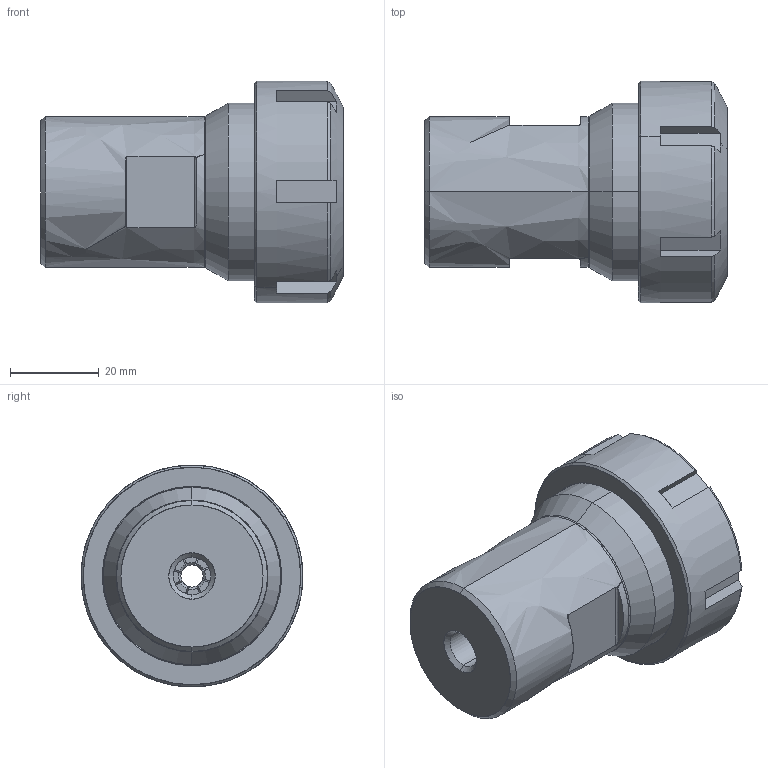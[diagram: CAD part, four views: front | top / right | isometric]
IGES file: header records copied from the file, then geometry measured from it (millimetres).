
Start section: SolidWorks IGES file using analytic representation for surfaces
Global section: file name: R:\Inventor\Kundmodeller Solidworks\Chuckar\040J000124 Collet chuck ER32 3-8-24 2-20 mm.IGS; native system: SolidWorks 2008; preprocessor: SolidWorks 2008; author: Johan; date: 090903.152621; units: millimetre
Bounding box: 68.12 x 50 x 50 mm (x, y, z)
Surface area: 39428.8 mm2 (no closed solid volume)
Topology: 0 solids, 0 shells, 234 faces, 2384 edges, 2384 vertices
Faces by surface type: bspline 118, revolution 116
